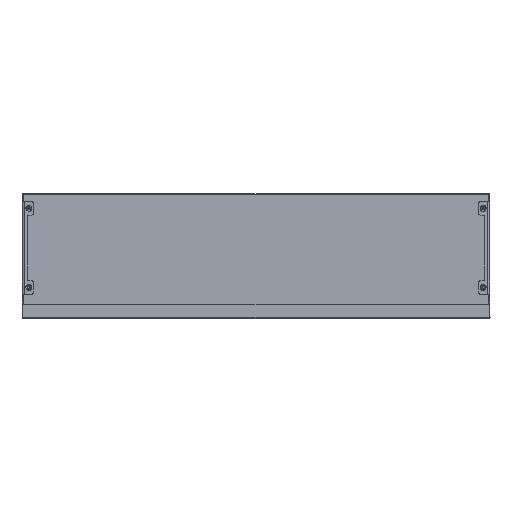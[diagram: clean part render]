
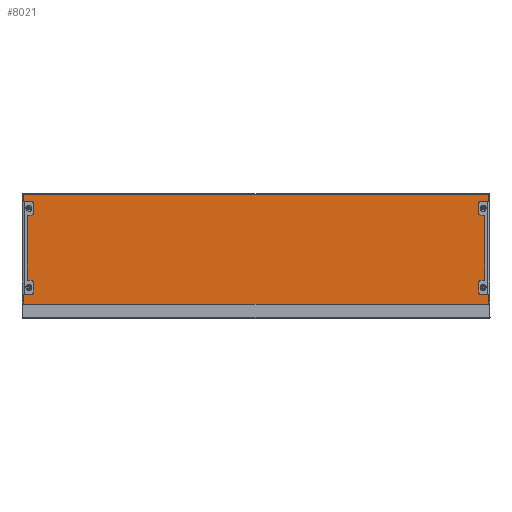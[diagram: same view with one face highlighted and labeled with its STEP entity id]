
A CAD part, front view. The second image highlights one B-rep face of the part: STEP entity #8021.
In plain terms, the highlighted planar face has unit normal (0, -1, 0).
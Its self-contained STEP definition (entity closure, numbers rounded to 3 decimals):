
#34 = CIRCLE ( 'NONE', #810, 0.6 ) ;
#46 = LINE ( 'NONE', #2614, #342 ) ;
#213 = VERTEX_POINT ( 'NONE', #5597 ) ;
#280 = AXIS2_PLACEMENT_3D ( 'NONE', #2963, #5516, #1704 ) ;
#342 = VECTOR ( 'NONE', #5167, 1000. ) ;
#399 = LINE ( 'NONE', #518, #4217 ) ;
#504 = EDGE_CURVE ( 'NONE', #1770, #7479, #2365, .T. ) ;
#518 = CARTESIAN_POINT ( 'NONE',  ( 502.5, -1.4, -120.299 ) ) ;
#549 = CARTESIAN_POINT ( 'NONE',  ( -499.042, -1.4, -119.807 ) ) ;
#810 = AXIS2_PLACEMENT_3D ( 'NONE', #1108, #7386, #1658 ) ;
#829 = ORIENTED_EDGE ( 'NONE', *, *, #504, .F. ) ;
#904 = ORIENTED_EDGE ( 'NONE', *, *, #3737, .T. ) ;
#1108 = CARTESIAN_POINT ( 'NONE',  ( 499.466, -1.4, -119.383 ) ) ;
#1261 = CARTESIAN_POINT ( 'NONE',  ( -498.881, -1.4, 118.6 ) ) ;
#1304 = DIRECTION ( 'NONE',  ( 0., 0., 1. ) ) ;
#1390 = CARTESIAN_POINT ( 'NONE',  ( 499.466, -1.4, 118.466 ) ) ;
#1413 = EDGE_CURVE ( 'NONE', #6375, #6943, #7232, .T. ) ;
#1568 = VERTEX_POINT ( 'NONE', #2350 ) ;
#1649 = AXIS2_PLACEMENT_3D ( 'NONE', #4932, #7904, #7948 ) ;
#1658 = DIRECTION ( 'NONE',  ( 0., 0., -1. ) ) ;
#1704 = DIRECTION ( 'NONE',  ( 0., 0., -1. ) ) ;
#1707 = VECTOR ( 'NONE', #3439, 1000. ) ;
#1770 = VERTEX_POINT ( 'NONE', #6748 ) ;
#2222 = CARTESIAN_POINT ( 'NONE',  ( 499.6, -1.4, 118.6 ) ) ;
#2350 = CARTESIAN_POINT ( 'NONE',  ( -499.533, -1.4, -120.299 ) ) ;
#2365 = LINE ( 'NONE', #5505, #4332 ) ;
#2614 = CARTESIAN_POINT ( 'NONE',  ( 502.5, -1.4, 118.6 ) ) ;
#2649 = FACE_OUTER_BOUND ( 'NONE', #5541, .T. ) ;
#2687 = LINE ( 'NONE', #6523, #4987 ) ;
#2836 = CARTESIAN_POINT ( 'NONE',  ( 499.6, -1.4, 117.881 ) ) ;
#2963 = CARTESIAN_POINT ( 'NONE',  ( -499.466, -1.4, -119.383 ) ) ;
#3006 = ORIENTED_EDGE ( 'NONE', *, *, #5004, .T. ) ;
#3061 = VERTEX_POINT ( 'NONE', #1261 ) ;
#3147 = CARTESIAN_POINT ( 'NONE',  ( -499.6, -1.4, -121.799 ) ) ;
#3232 = DIRECTION ( 'NONE',  ( 0.707, 0., 0.707 ) ) ;
#3250 = CARTESIAN_POINT ( 'NONE',  ( 499.6, -1.4, -118.798 ) ) ;
#3439 = DIRECTION ( 'NONE',  ( 0., 0., -1. ) ) ;
#3634 = VERTEX_POINT ( 'NONE', #7963 ) ;
#3682 = AXIS2_PLACEMENT_3D ( 'NONE', #5201, #6554, #7650 ) ;
#3737 = EDGE_CURVE ( 'NONE', #3061, #213, #5131, .T. ) ;
#4117 = AXIS2_PLACEMENT_3D ( 'NONE', #1390, #4707, #6451 ) ;
#4196 = EDGE_CURVE ( 'NONE', #6943, #1770, #34, .T. ) ;
#4217 = VECTOR ( 'NONE', #6183, 1000. ) ;
#4230 = EDGE_CURVE ( 'NONE', #6843, #3634, #5109, .T. ) ;
#4332 = VECTOR ( 'NONE', #6616, 1000. ) ;
#4642 = ORIENTED_EDGE ( 'NONE', *, *, #5967, .F. ) ;
#4707 = DIRECTION ( 'NONE',  ( 0., 1., 0. ) ) ;
#4932 = CARTESIAN_POINT ( 'NONE',  ( -499.466, -1.4, 118.466 ) ) ;
#4987 = VECTOR ( 'NONE', #3232, 1000. ) ;
#4997 = ORIENTED_EDGE ( 'NONE', *, *, #7595, .T. ) ;
#5004 = EDGE_CURVE ( 'NONE', #6375, #6097, #6636, .T. ) ;
#5109 = CIRCLE ( 'NONE', #280, 0.6 ) ;
#5131 = CIRCLE ( 'NONE', #1649, 0.6 ) ;
#5167 = DIRECTION ( 'NONE',  ( -1., 0., 0. ) ) ;
#5201 = CARTESIAN_POINT ( 'NONE',  ( 502.5, -1.4, 121.5 ) ) ;
#5310 = EDGE_CURVE ( 'NONE', #1568, #6843, #2687, .T. ) ;
#5505 = CARTESIAN_POINT ( 'NONE',  ( 189.617, -1.4, 189.617 ) ) ;
#5516 = DIRECTION ( 'NONE',  ( 0., -1., 0. ) ) ;
#5541 = EDGE_LOOP ( 'NONE', ( #7003, #3006, #4997, #904, #4642, #6042, #6635, #5946, #829, #5745 ) ) ;
#5597 = CARTESIAN_POINT ( 'NONE',  ( -499.6, -1.4, 117.881 ) ) ;
#5745 = ORIENTED_EDGE ( 'NONE', *, *, #4196, .F. ) ;
#5946 = ORIENTED_EDGE ( 'NONE', *, *, #8257, .F. ) ;
#5967 = EDGE_CURVE ( 'NONE', #3634, #213, #6866, .T. ) ;
#6042 = ORIENTED_EDGE ( 'NONE', *, *, #4230, .F. ) ;
#6097 = VERTEX_POINT ( 'NONE', #6440 ) ;
#6183 = DIRECTION ( 'NONE',  ( -1., 0., 0. ) ) ;
#6375 = VERTEX_POINT ( 'NONE', #2836 ) ;
#6440 = CARTESIAN_POINT ( 'NONE',  ( 498.881, -1.4, 118.6 ) ) ;
#6451 = DIRECTION ( 'NONE',  ( 0., 0., 1. ) ) ;
#6523 = CARTESIAN_POINT ( 'NONE',  ( -189.617, -1.4, 189.617 ) ) ;
#6554 = DIRECTION ( 'NONE',  ( 0., 1., 0. ) ) ;
#6616 = DIRECTION ( 'NONE',  ( 0.707, 0., -0.707 ) ) ;
#6635 = ORIENTED_EDGE ( 'NONE', *, *, #5310, .F. ) ;
#6636 = CIRCLE ( 'NONE', #4117, 0.6 ) ;
#6748 = CARTESIAN_POINT ( 'NONE',  ( 499.042, -1.4, -119.807 ) ) ;
#6843 = VERTEX_POINT ( 'NONE', #549 ) ;
#6866 = LINE ( 'NONE', #3147, #7243 ) ;
#6943 = VERTEX_POINT ( 'NONE', #3250 ) ;
#7003 = ORIENTED_EDGE ( 'NONE', *, *, #1413, .F. ) ;
#7120 = CARTESIAN_POINT ( 'NONE',  ( 499.533, -1.4, -120.299 ) ) ;
#7232 = LINE ( 'NONE', #2222, #1707 ) ;
#7243 = VECTOR ( 'NONE', #1304, 1000. ) ;
#7386 = DIRECTION ( 'NONE',  ( 0., -1., 0. ) ) ;
#7479 = VERTEX_POINT ( 'NONE', #7120 ) ;
#7595 = EDGE_CURVE ( 'NONE', #6097, #3061, #46, .T. ) ;
#7650 = DIRECTION ( 'NONE',  ( 0., 0., 1. ) ) ;
#7904 = DIRECTION ( 'NONE',  ( 0., 1., 0. ) ) ;
#7948 = DIRECTION ( 'NONE',  ( 0., 0., 1. ) ) ;
#7963 = CARTESIAN_POINT ( 'NONE',  ( -499.6, -1.4, -118.798 ) ) ;
#8021 = ADVANCED_FACE ( 'NONE', ( #2649 ), #8272, .F. ) ;
#8257 = EDGE_CURVE ( 'NONE', #7479, #1568, #399, .T. ) ;
#8272 = PLANE ( 'NONE',  #3682 ) ;
